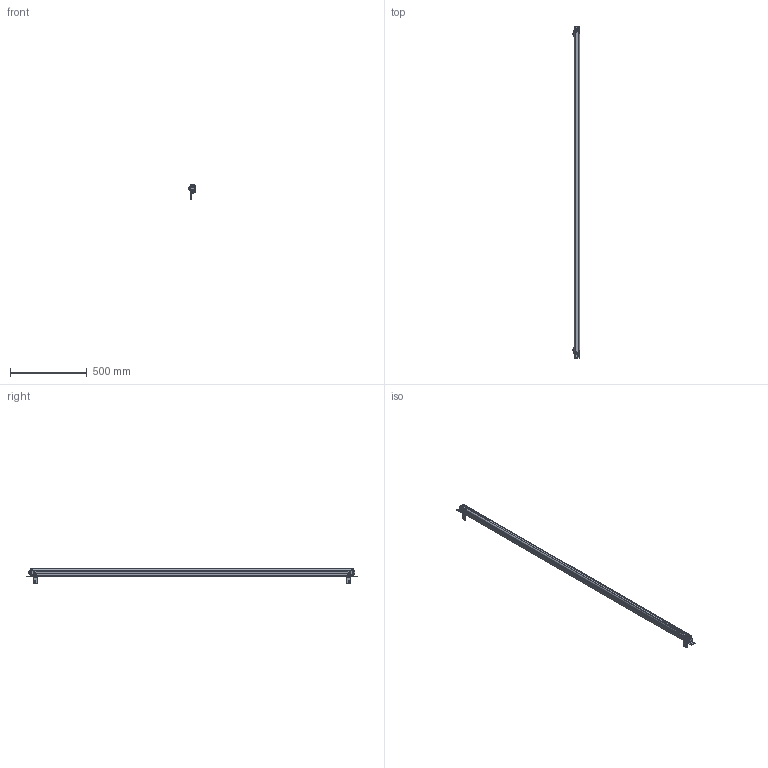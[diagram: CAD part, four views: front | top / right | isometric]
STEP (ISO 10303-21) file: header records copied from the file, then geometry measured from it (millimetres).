
FILE_DESCRIPTION((''),'2;1');
FILE_NAME('ESN--000_ASM','2021-08-11T16:42:33',('18720616900'),(''),'CREO PARAMETRIC BY PTC INC, 2019010','CREO PARAMETRIC BY PTC INC, 2019010','');
FILE_SCHEMA(('CONFIG_CONTROL_DESIGN'));
Products named in the file (22): 00; 000; _0002; _0003; _0004; 5000; 5--0001; ESN_50001_ASM; ST-3-120001; L10001; M6-8--0001; M6-1--00; M6-1-00; M6-80001_ASM; L1--0001_ASM; H1--000; H1--0003_ASM; H1--0001_ASM; ESN--000_ASM
Assembly tree (35 placements, depth 4):
  ESN--000_ASM
    00
    000
    _0002
    _0003
    _0004
    000
    ESN_50001_ASM
      5000
      5--0001  x5
    ST-3-120001  x8
    L1--0001_ASM  x2
      L10001
      M6-80001_ASM
        M6-8--0001
        M6-1--00
        M6-1-00
        00
    H1--0003_ASM
      H1--000
      M6-80001_ASM
        M6-8--0001
        M6-1--00
        M6-1-00
        00
    H1--0001_ASM
      H1--000
      M6-80001_ASM
        M6-8--0001
        M6-1--00
        M6-1-00
        00
Bounding box: 46.5 x 2167 x 94.95 mm (x, y, z)
Volume: 3140190.6 mm3; surface area: 623705.7 mm2
Topology: 40 solids, 40 shells, 1785 faces, 4708 edges, 3012 vertices
Faces by surface type: plane 583, cylinder 416, bspline 362, cone 291, torus 107, sphere 26
Entity records: 48222 total; most frequent: CARTESIAN_POINT 24957, ORIENTED_EDGE 5136, DIRECTION 4189, EDGE_CURVE 2568, VERTEX_POINT 1669, AXIS2_PLACEMENT_3D 1488, VECTOR 1213, LINE 1213
